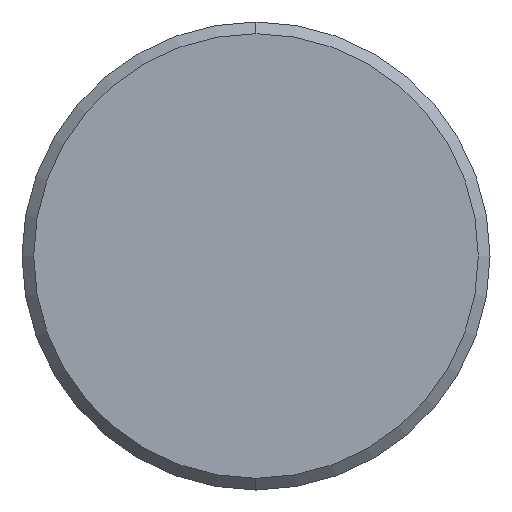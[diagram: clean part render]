
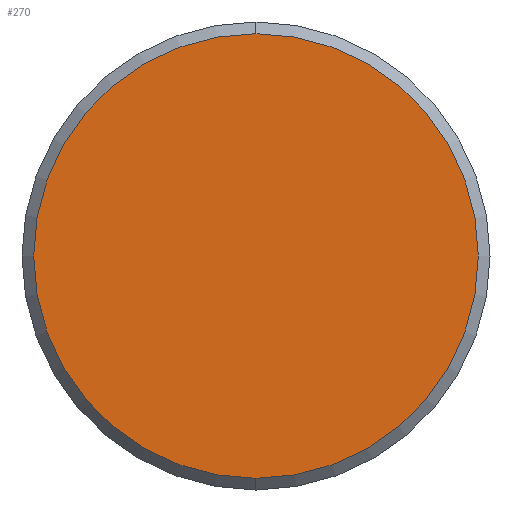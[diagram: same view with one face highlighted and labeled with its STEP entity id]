
A CAD part, left-side view. The second image highlights one B-rep face of the part: STEP entity #270.
In plain terms, the highlighted planar face has unit normal (-1, 0, 0).
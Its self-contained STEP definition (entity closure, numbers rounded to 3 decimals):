
#1 = DIRECTION ( 'NONE',  ( -1., 0., 0. ) ) ;
#9 = CARTESIAN_POINT ( 'NONE',  ( -37., 0., 0. ) ) ;
#12 = DIRECTION ( 'NONE',  ( -1., 0., 0. ) ) ;
#16 = AXIS2_PLACEMENT_3D ( 'NONE', #553, #556, #59 ) ;
#53 = DIRECTION ( 'NONE',  ( 0., 0., 1. ) ) ;
#59 = DIRECTION ( 'NONE',  ( 0., 0., 1. ) ) ;
#101 = ORIENTED_EDGE ( 'NONE', *, *, #692, .T. ) ;
#143 = ORIENTED_EDGE ( 'NONE', *, *, #633, .T. ) ;
#148 = CIRCLE ( 'NONE', #516, 9.5 ) ;
#187 = CARTESIAN_POINT ( 'NONE',  ( -37., 0., 0. ) ) ;
#243 = VERTEX_POINT ( 'NONE', #699 ) ;
#261 = CIRCLE ( 'NONE', #656, 9.5 ) ;
#270 = ADVANCED_FACE ( 'NONE', ( #282 ), #340, .T. ) ;
#282 = FACE_OUTER_BOUND ( 'NONE', #328, .T. ) ;
#328 = EDGE_LOOP ( 'NONE', ( #143, #101 ) ) ;
#340 = PLANE ( 'NONE',  #16 ) ;
#408 = DIRECTION ( 'NONE',  ( 0., 0., 1. ) ) ;
#516 = AXIS2_PLACEMENT_3D ( 'NONE', #187, #12, #408 ) ;
#541 = CARTESIAN_POINT ( 'NONE',  ( -37., 0., 9.5 ) ) ;
#550 = VERTEX_POINT ( 'NONE', #541 ) ;
#553 = CARTESIAN_POINT ( 'NONE',  ( -37., 0., 0. ) ) ;
#556 = DIRECTION ( 'NONE',  ( -1., 0., 0. ) ) ;
#633 = EDGE_CURVE ( 'NONE', #243, #550, #261, .T. ) ;
#656 = AXIS2_PLACEMENT_3D ( 'NONE', #9, #1, #53 ) ;
#692 = EDGE_CURVE ( 'NONE', #550, #243, #148, .T. ) ;
#699 = CARTESIAN_POINT ( 'NONE',  ( -37., 0., -9.5 ) ) ;
